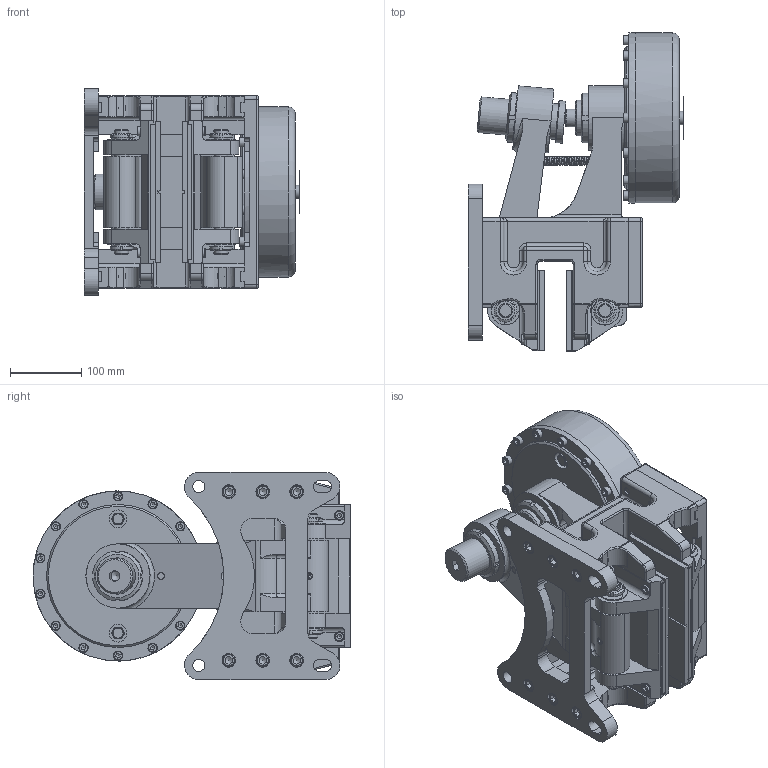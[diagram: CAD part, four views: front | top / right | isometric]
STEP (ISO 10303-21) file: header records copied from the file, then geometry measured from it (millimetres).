
FILE_DESCRIPTION(/* description */ ('','CAx-IF Rec.Pracs.---Representation and Presentation of Product Manufacturing Information (PMI)---4.0---2014-10-13'),/* implementation_level */ '2;1');
FILE_NAME(/* name */ 'X:\INVENTOR\DISEGNI\19_Pinze\STEP x Sito\PNEUM-POSITIVE\19_16_660_05 PPTP660_30.stp',/* time_stamp */ '2018-10-29T09:04:32+01:00',/* author */ ('stefano'),/* organization */ (''),/* preprocessor_version */ 'ST-DEVELOPER v17',/* originating_system */ 'Autodesk Inventor 2018',/* authorisation */ '');
FILE_SCHEMA (('AP242_MANAGED_MODEL_BASED_3D_ENGINEERING_MIM_LF { 1 0 10303 442 1 1 4 }'));
Length unit declared in the file: millimetre
Products named in the file (1): 19_16_660_05 PPTP660_30_Substitute_2
Bounding box: 302.1 x 445 x 290 mm (x, y, z)
Volume: 11075456.6 mm3; surface area: 1026327.7 mm2
Topology: 1 solids, 1 shells, 1593 faces, 4391 edges, 2864 vertices
Faces by surface type: plane 802, cylinder 434, torus 184, cone 128, bspline 29, sphere 16
Full cylindrical faces by diameter (mm): 1.8 x2, 3 x1, 5.188 x1, 7.4 x1, 7.5 x2, 8 x9, 8.376 x1, 8.5 x8, 8.917 x2, 9 x1, 9.188 x1, 10 x2, 10.106 x12, 10.5 x4, 12 x12, 12.5 x12, 13 x22, 13.5 x8, 14 x1, 16.5 x4, 17 x2, 18 x13, 18.631 x1, 19 x12, 20 x12, 22 x6, 25 x7, 28 x1, 33.6 x1, 50 x3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
Entity records: 59992 total; most frequent: CARTESIAN_POINT 17796, ORIENTED_EDGE 8666, DIRECTION 8605, EDGE_CURVE 4333, AXIS2_PLACEMENT_3D 3253, VERTEX_POINT 2864, LINE 2099, VECTOR 2099
